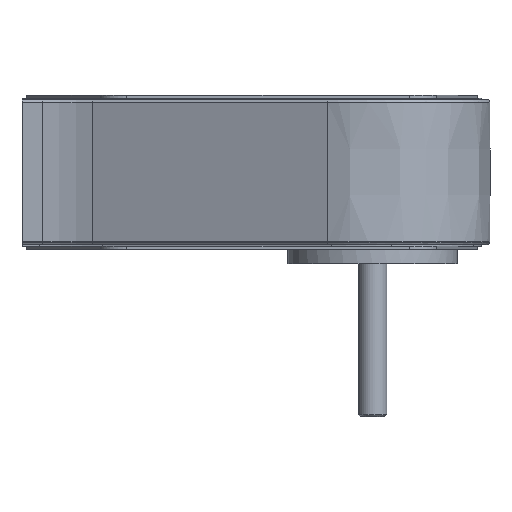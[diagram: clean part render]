
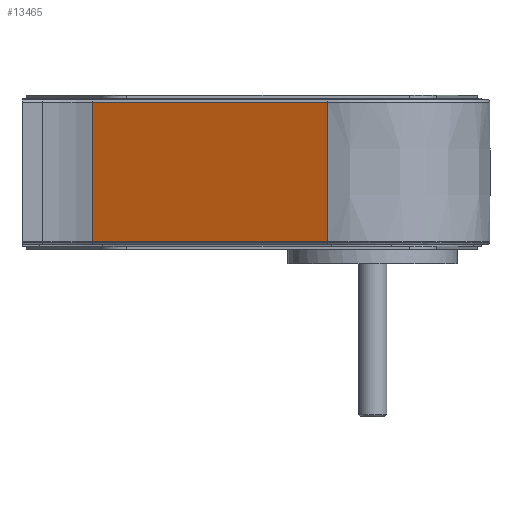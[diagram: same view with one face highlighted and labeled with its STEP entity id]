
A CAD part, front view. The second image highlights one B-rep face of the part: STEP entity #13465.
In plain terms, the highlighted planar face has unit normal (-0.386, -0.923, 0).
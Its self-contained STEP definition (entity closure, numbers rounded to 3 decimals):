
#70 = DIRECTION ( 'NONE',  ( 0.923, -0.386, 0. ) ) ;
#162 = CARTESIAN_POINT ( 'NONE',  ( -198.693, -7.022, 49.366 ) ) ;
#649 = VECTOR ( 'NONE', #6554, 1000. ) ;
#901 = CARTESIAN_POINT ( 'NONE',  ( -32.077, -76.702, 49.366 ) ) ;
#3657 = CARTESIAN_POINT ( 'NONE',  ( -198.693, -7.022, -49.366 ) ) ;
#3691 = CARTESIAN_POINT ( 'NONE',  ( -32.077, -76.702, 0. ) ) ;
#3885 = ORIENTED_EDGE ( 'NONE', *, *, #6973, .T. ) ;
#4780 = ORIENTED_EDGE ( 'NONE', *, *, #11037, .F. ) ;
#4994 = AXIS2_PLACEMENT_3D ( 'NONE', #3691, #14200, #70 ) ;
#5714 = ORIENTED_EDGE ( 'NONE', *, *, #7351, .T. ) ;
#6554 = DIRECTION ( 'NONE',  ( 0., 0., 1. ) ) ;
#6643 = PLANE ( 'NONE',  #4994 ) ;
#6841 = EDGE_LOOP ( 'NONE', ( #5714, #3885, #4780, #23173 ) ) ;
#6973 = EDGE_CURVE ( 'NONE', #18230, #22738, #15795, .T. ) ;
#7049 = FACE_OUTER_BOUND ( 'NONE', #6841, .T. ) ;
#7115 = LINE ( 'NONE', #8430, #649 ) ;
#7298 = DIRECTION ( 'NONE',  ( -0.923, 0.386, 0. ) ) ;
#7311 = CARTESIAN_POINT ( 'NONE',  ( -198.693, -7.022, 0. ) ) ;
#7351 = EDGE_CURVE ( 'NONE', #20312, #18230, #7115, .T. ) ;
#8430 = CARTESIAN_POINT ( 'NONE',  ( -32.077, -76.702, 0. ) ) ;
#9028 = DIRECTION ( 'NONE',  ( 0., 0., 1. ) ) ;
#11037 = EDGE_CURVE ( 'NONE', #15953, #22738, #14879, .T. ) ;
#11050 = VECTOR ( 'NONE', #7298, 1000. ) ;
#13129 = LINE ( 'NONE', #21476, #13416 ) ;
#13416 = VECTOR ( 'NONE', #17968, 1000. ) ;
#13465 = ADVANCED_FACE ( 'NONE', ( #7049 ), #6643, .T. ) ;
#14200 = DIRECTION ( 'NONE',  ( -0.386, -0.923, 0. ) ) ;
#14879 = LINE ( 'NONE', #7311, #15182 ) ;
#15182 = VECTOR ( 'NONE', #9028, 1000. ) ;
#15795 = LINE ( 'NONE', #23080, #11050 ) ;
#15953 = VERTEX_POINT ( 'NONE', #3657 ) ;
#17968 = DIRECTION ( 'NONE',  ( -0.923, 0.386, 0. ) ) ;
#18230 = VERTEX_POINT ( 'NONE', #901 ) ;
#18902 = CARTESIAN_POINT ( 'NONE',  ( -32.077, -76.702, -49.366 ) ) ;
#20312 = VERTEX_POINT ( 'NONE', #18902 ) ;
#21476 = CARTESIAN_POINT ( 'NONE',  ( -32.077, -76.702, -49.366 ) ) ;
#22269 = EDGE_CURVE ( 'NONE', #20312, #15953, #13129, .T. ) ;
#22738 = VERTEX_POINT ( 'NONE', #162 ) ;
#23080 = CARTESIAN_POINT ( 'NONE',  ( -32.077, -76.702, 49.366 ) ) ;
#23173 = ORIENTED_EDGE ( 'NONE', *, *, #22269, .F. ) ;
